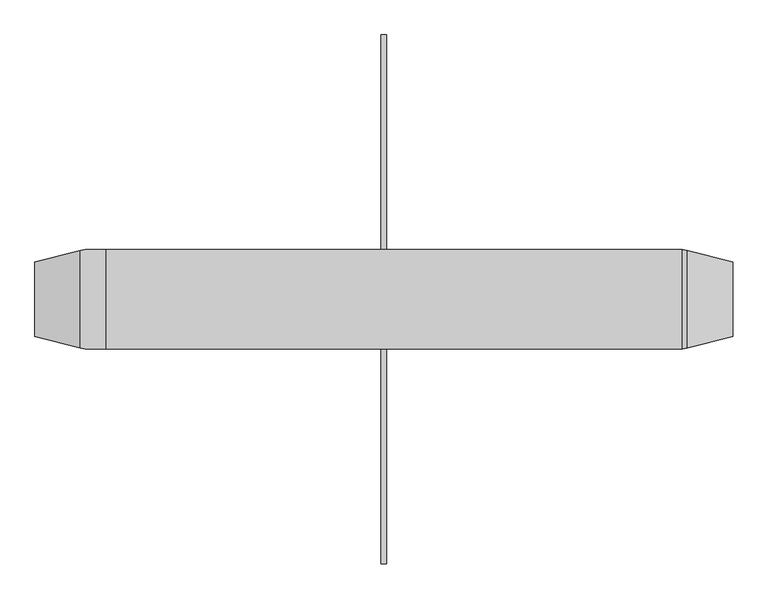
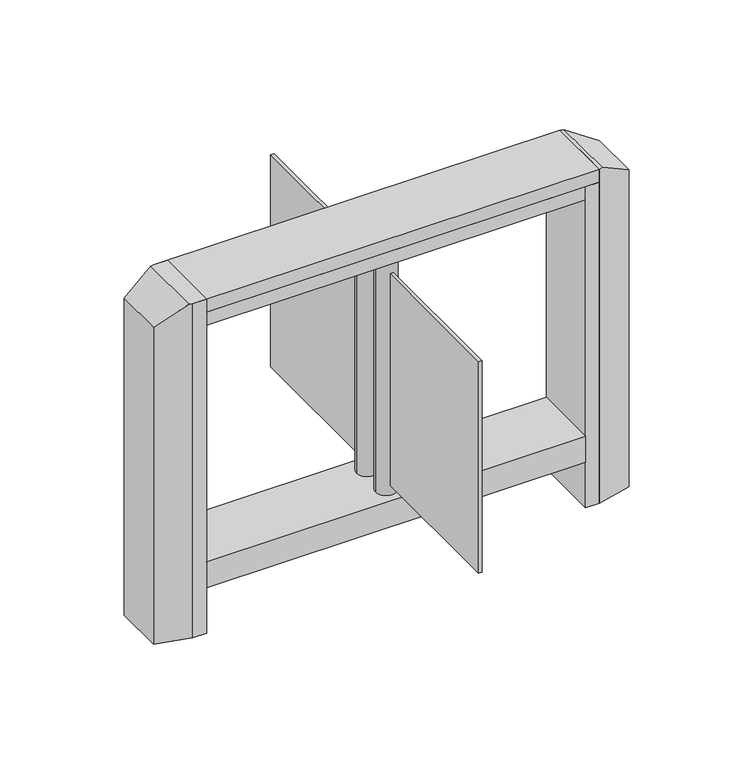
"""IFC4 building model written with IfcOpenShell, lengths in millimetres: proxy geometry, Gotschlich_Турникет_Axioma DF_Центральный_Модуль_R18 : Axioma DF B/B LW900-900."""

from ifc_helpers import new_model, si_unit, point, frame, frame_2d, origin, origin_with_axes, place, context, project, spatial, polyline, circle_curve, trimmed, segment, composite_curve, outline, extrude, faceted_brep, source, transform, mapped, element, save


def mechanical_equipment_59e46698(model_context):
    return source(origin(), model_context, "Body", "SolidModel", [
        extrude(outline(polyline([(5.0, 523.0201137), (5.0, 48.0201137), (-5.0, 48.0201137), (-5.0, 523.0201137), (5.0, 523.0201137)])), frame((0.0, 0.0, 250.0), z_axis=(0.0, 0.0, 1.0), x_axis=(1.0, 0.0, 0.0)), (0.0, 0.0, 1.0), 650.0),
        extrude(outline(composite_curve([segment(trimmed(circle_curve(frame_2d((0.0, 48.0201137)), 30.0), [point((30.0, 48.0201137))], [point((-30.0, 48.0201137))], False, "CARTESIAN"), True, "CONTINUOUS"), segment(trimmed(circle_curve(frame_2d((0.0, 48.0201137)), 30.0), [point((-30.0, 48.0201137))], [point((30.0, 48.0201137))], False, "CARTESIAN"), True, "CONTINUOUS")], self_intersect=False)), frame((0.0, 0.0, 220.0), z_axis=(0.0, 0.0, 1.0), x_axis=(1.0, 0.0, 0.0)), (0.0, 0.0, 1.0), 725.0),
        extrude(outline(polyline([(5.0, -48.0201137), (5.0, -523.0201137), (-5.0, -523.0201137), (-5.0, -48.0201137), (5.0, -48.0201137)])), frame((0.0, 0.0, 250.0), z_axis=(0.0, 0.0, 1.0), x_axis=(1.0, 0.0, 0.0)), (0.0, 0.0, 1.0), 650.0),
        extrude(outline(composite_curve([segment(trimmed(circle_curve(frame_2d((0.0, -48.0201137)), 30.0), [point((30.0, -48.0201137))], [point((-30.0, -48.0201137))], False, "CARTESIAN"), True, "CONTINUOUS"), segment(trimmed(circle_curve(frame_2d((0.0, -48.0201137)), 30.0), [point((-30.0, -48.0201137))], [point((30.0, -48.0201137))], False, "CARTESIAN"), True, "CONTINUOUS")], self_intersect=False)), frame((0.0, 0.0, 220.0), z_axis=(0.0, 0.0, 1.0), x_axis=(1.0, 0.0, 0.0)), (0.0, 0.0, 1.0), 725.0),
        faceted_brep([(-550.0, -98.5, 0.0), (-550.0, -98.5, 1025.0), (-590.1, -98.5, 1025.0), (-590.1, -98.5, 0.0), (-550.0, 98.5, 1025.0), (-550.0, 98.5, 0.0), (-590.1, 98.5, 0.0), (-590.1, 98.5, 1025.0), (-690.1, -73.5, 0.0), (-690.1, 73.5, 0.0), (-600.1, 96.0, 1025.0), (-600.1, -96.0, 1025.0), (-690.1, 73.5, 973.0384758), (-690.1, -73.5, 973.0384758)], [[[0, 1, 2, 3]], [[4, 5, 6, 7]], [[5, 0, 3, 8, 9, 6]], [[1, 0, 5, 4]], [[1, 4, 7, 10, 11, 2]], [[11, 10, 12, 13]], [[13, 12, 9, 8]], [[7, 6, 9, 12, 10]], [[3, 2, 11, 13, 8]]]),
        faceted_brep([(690.1, 73.5, 973.0384758), (690.1, -73.5, 973.0384758), (690.1, -73.5, 0.0), (690.1, 73.5, 0.0), (600.1, 96.0, 1025.0), (600.1, -96.0, 1025.0), (590.1, 98.5, 1025.0), (590.1, -98.5, 1025.0), (590.1, 98.5, 0.0), (590.1, -98.5, 0.0)], [[[0, 1, 2, 3]], [[1, 0, 4, 5]], [[6, 7, 5, 4]], [[7, 6, 8, 9]], [[9, 8, 3, 2]], [[2, 1, 5, 7, 9]], [[0, 3, 8, 6, 4]]]),
        extrude(outline(polyline([(-550.0, 98.5), (550.0, 98.5), (550.0, -98.5), (-550.0, -98.5), (-550.0, 98.5)])), frame((0.0, 0.0, 140.0), z_axis=(0.0, 0.0, 1.0), x_axis=(1.0, 0.0, 0.0)), (0.0, 0.0, 1.0), 80.0),
        extrude(outline(polyline([(-590.1, 98.5), (-550.0, 98.5), (-550.0, -98.5), (-590.1, -98.5), (-590.1, 98.5)])), origin_with_axes(), (0.0, 0.0, 1.0), 985.0),
        extrude(outline(polyline([(550.0, 98.5), (590.1, 98.5), (590.1, -98.5), (550.0, -98.5), (550.0, 98.5)])), origin_with_axes(), (0.0, 0.0, 1.0), 985.0),
        extrude(outline(polyline([(-550.0, 98.5), (550.0, 98.5), (550.0, -98.5), (-550.0, -98.5), (-550.0, 98.5)])), frame((0.0, 0.0, 945.0), z_axis=(0.0, 0.0, 1.0), x_axis=(1.0, 0.0, 0.0)), (0.0, 0.0, 1.0), 40.0),
        extrude(outline(polyline([(-590.1, 98.5), (590.1, 98.5), (590.1, -98.5), (-590.1, -98.5), (-590.1, 98.5)])), frame((0.0, 0.0, 985.0), z_axis=(0.0, 0.0, 1.0), x_axis=(1.0, 0.0, 0.0)), (0.0, 0.0, 1.0), 40.0),
    ])


if __name__ == "__main__":
    model = new_model("IFC4")
    model_context = context("Model", 3, world=origin())
    ifc_project = project(units=[si_unit("LENGTHUNIT", "METRE", prefix="MILLI")], contexts=[model_context])
    site = spatial("IfcSite", under=ifc_project)
    building = spatial("IfcBuilding", under=site)
    placement = place(None, origin())
    mechanical_equipment_shape = mechanical_equipment_59e46698(model_context)
    element("IfcBuildingElementProxy", 1, Name="Gotschlich_Турникет_Axioma DF_Центральный_Модуль_R18 : Axioma DF B/B LW900-900", ObjectType="Gotschlich_Турникет_Axioma DF_Центральный_Модуль_R18 : Axioma DF B/B LW900-900", at=placement, inside=building, context=model_context, shape_type="MappedRepresentation", body=[
        mapped(mechanical_equipment_shape, transform((0.0, 0.0, 0.0), x_axis=(1.0, 0.0, 0.0), y_axis=(0.0, 1.0, 0.0), z_axis=(0.0, 0.0, 1.0))),
    ])
    save(model, "model.ifc")
